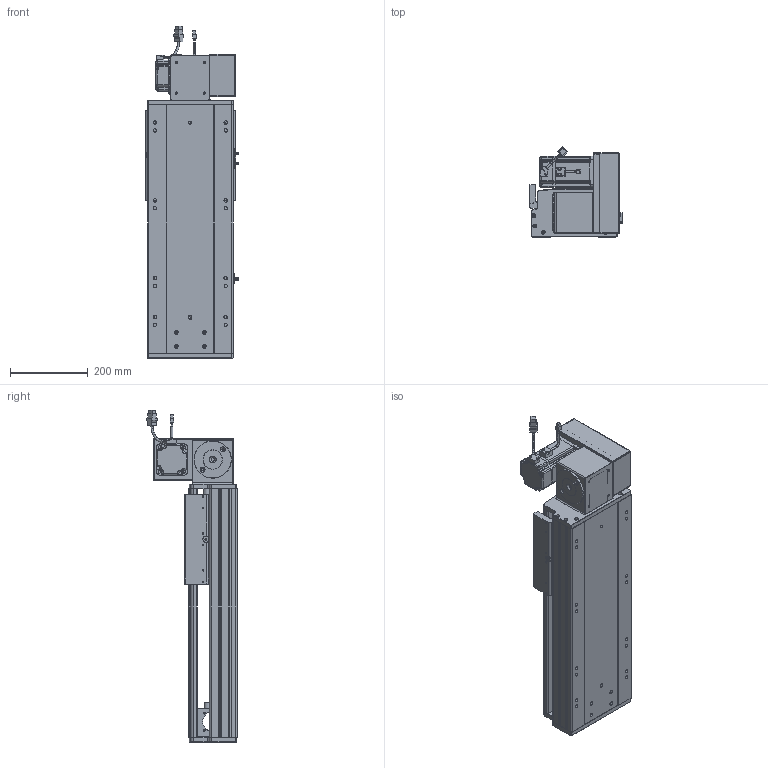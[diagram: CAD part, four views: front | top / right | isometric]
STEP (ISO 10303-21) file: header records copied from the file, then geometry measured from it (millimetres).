
FILE_DESCRIPTION (( 'STEP AP203' ), '1' );
FILE_NAME ('RY220-T-300-UR.SLDASM_默认.step', '2022-07-25T08:42:06', ( '' ), ( '' ), 'SwSTEP 2.0', 'SolidWorks 2016', '' );
FILE_SCHEMA (( 'CONFIG_CONTROL_DESIGN' ));
Length unit declared in the file: millimetre
Products named in the file (14): RY220-T-300-UR.SLDASM_默认; 怢湛750W_ECMA-CX0807ES; RY220-T-湍謫欶(鍼踢); RY220-俋离672覜茼んえ; RY220圉猾敕々湍臏賑輸; RY220-同步轮副支撑座6304×2; 滅袉蝶18-15; RY220-T菁釱-300; RY220-T-蛌殏萇儂假蚾啣(750W); 覜茼ん672; 110A-T-肮祭謫釱傷裔; RY220-T-300-奻裔啣; RY220翋肮祭謫釱; RY220翋肮祭謫裔啣
Assembly tree (18 placements, depth 2):
  RY220-T-300-UR.SLDASM_默认
    RY220-T菁釱-300
    RY220翋肮祭謫釱
    覜茼ん672  x3
    RY220圉猾敕々湍臏賑輸
    RY220-T-300-奻裔啣
    RY220-俋离672覜茼んえ
    滅袉蝶18-15  x3
    RY220翋肮祭謫裔啣  x2
    110A-T-肮祭謫釱傷裔
    怢湛750W_ECMA-CX0807ES
    RY220-T-湍謫欶(鍼踢)
    RY220-T-蛌殏萇儂假蚾啣(750W)
    RY220-同步轮副支撑座6304×2
Bounding box: 238.7 x 231.74 x 853.27 mm (x, y, z)
Volume: 7728714 mm3; surface area: 2103981.8 mm2
Topology: 19 solids, 19 shells, 2486 faces, 6851 edges, 4374 vertices
Faces by surface type: cylinder 1134, plane 1069, cone 201, bspline 56, sphere 16, torus 10
Entity records: 82627 total; most frequent: CARTESIAN_POINT 23707, ORIENTED_EDGE 12282, DIRECTION 11480, EDGE_CURVE 6141, AXIS2_PLACEMENT_3D 4016, VERTEX_POINT 3998, LINE 3448, VECTOR 3448
